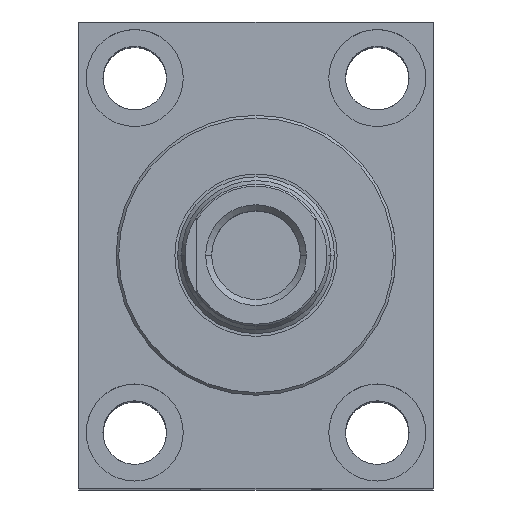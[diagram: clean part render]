
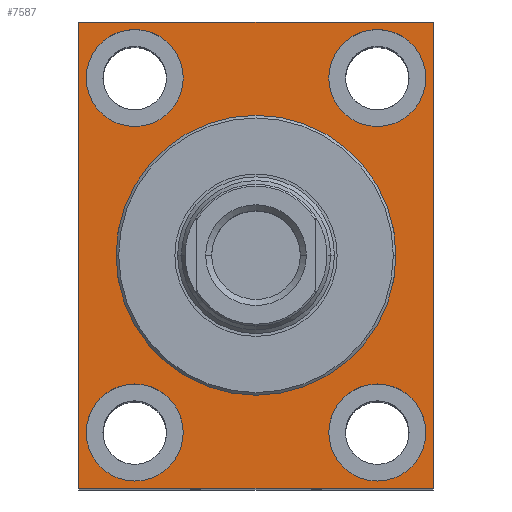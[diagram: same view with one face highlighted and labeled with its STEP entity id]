
A CAD part, top view. The second image highlights one B-rep face of the part: STEP entity #7587.
In plain terms, the highlighted planar face has unit normal (0, 0, 1).
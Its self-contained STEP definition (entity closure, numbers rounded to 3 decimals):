
#70 = CARTESIAN_POINT ( 'NONE',  ( -32.5, -47.5, -14. ) ) ;
#195 = EDGE_CURVE ( 'NONE', #8086, #7768, #4746, .T. ) ;
#219 = DIRECTION ( 'NONE',  ( 0., 0., 1. ) ) ;
#282 = ORIENTED_EDGE ( 'NONE', *, *, #6285, .T. ) ;
#401 = CARTESIAN_POINT ( 'NONE',  ( -45.5, -47.5, -14. ) ) ;
#408 = DIRECTION ( 'NONE',  ( -1., 0., 0. ) ) ;
#432 = CARTESIAN_POINT ( 'NONE',  ( 0., 37.501, -14. ) ) ;
#453 = PLANE ( 'NONE',  #2390 ) ;
#476 = CARTESIAN_POINT ( 'NONE',  ( 32.5, -47.5, -14. ) ) ;
#479 = ORIENTED_EDGE ( 'NONE', *, *, #5317, .T. ) ;
#623 = CARTESIAN_POINT ( 'NONE',  ( -47.5, 62.5, -14. ) ) ;
#718 = CARTESIAN_POINT ( 'NONE',  ( -47.5, -62.5, -14. ) ) ;
#761 = LINE ( 'NONE', #7641, #3872 ) ;
#765 = CARTESIAN_POINT ( 'NONE',  ( 47.5, 62.5, -14. ) ) ;
#802 = VERTEX_POINT ( 'NONE', #3469 ) ;
#821 = ORIENTED_EDGE ( 'NONE', *, *, #7153, .T. ) ;
#945 = DIRECTION ( 'NONE',  ( -1., 0., 0. ) ) ;
#955 = CIRCLE ( 'NONE', #7934, 37.501 ) ;
#977 = VECTOR ( 'NONE', #1991, 1000. ) ;
#988 = VERTEX_POINT ( 'NONE', #765 ) ;
#1033 = CARTESIAN_POINT ( 'NONE',  ( 45.5, -47.5, -14. ) ) ;
#1266 = AXIS2_PLACEMENT_3D ( 'NONE', #476, #5963, #6039 ) ;
#1265 = CARTESIAN_POINT ( 'NONE',  ( -32.5, 47.5, -14. ) ) ;
#1382 = LINE ( 'NONE', #718, #977 ) ;
#1417 = EDGE_LOOP ( 'NONE', ( #3364, #5123, #7441, #7931 ) ) ;
#1420 = VERTEX_POINT ( 'NONE', #4426 ) ;
#1518 = AXIS2_PLACEMENT_3D ( 'NONE', #5764, #2918, #945 ) ;
#1921 = EDGE_CURVE ( 'NONE', #6355, #6663, #6923, .T. ) ;
#1924 = DIRECTION ( 'NONE',  ( -1., 0., 0. ) ) ;
#1991 = DIRECTION ( 'NONE',  ( 1., 0., 0. ) ) ;
#1992 = AXIS2_PLACEMENT_3D ( 'NONE', #2331, #4850, #7350 ) ;
#2044 = CARTESIAN_POINT ( 'NONE',  ( -47.5, -62.5, -14. ) ) ;
#2089 = ORIENTED_EDGE ( 'NONE', *, *, #2458, .T. ) ;
#2108 = FACE_BOUND ( 'NONE', #3210, .T. ) ;
#2125 = CIRCLE ( 'NONE', #6874, 13. ) ;
#2331 = CARTESIAN_POINT ( 'NONE',  ( 0., 0., -14. ) ) ;
#2345 = DIRECTION ( 'NONE',  ( 0., 0., -1. ) ) ;
#2390 = AXIS2_PLACEMENT_3D ( 'NONE', #6109, #219, #3931 ) ;
#2426 = VECTOR ( 'NONE', #5402, 1000. ) ;
#2458 = EDGE_CURVE ( 'NONE', #3333, #1420, #5223, .T. ) ;
#2470 = CARTESIAN_POINT ( 'NONE',  ( -19.5, -47.5, -14. ) ) ;
#2472 = EDGE_LOOP ( 'NONE', ( #6081, #4098 ) ) ;
#2499 = VERTEX_POINT ( 'NONE', #432 ) ;
#2530 = CIRCLE ( 'NONE', #4510, 13. ) ;
#2543 = ORIENTED_EDGE ( 'NONE', *, *, #4186, .T. ) ;
#2585 = DIRECTION ( 'NONE',  ( 0., 1., 0. ) ) ;
#2766 = EDGE_CURVE ( 'NONE', #988, #802, #761, .T. ) ;
#2818 = AXIS2_PLACEMENT_3D ( 'NONE', #1265, #2345, #1924 ) ;
#2832 = EDGE_CURVE ( 'NONE', #3600, #5868, #1382, .T. ) ;
#2918 = DIRECTION ( 'NONE',  ( 0., 0., -1. ) ) ;
#2929 = CARTESIAN_POINT ( 'NONE',  ( 47.5, -62.5, -14. ) ) ;
#3046 = CIRCLE ( 'NONE', #1992, 37.501 ) ;
#3116 = DIRECTION ( 'NONE',  ( 0., 0., -1. ) ) ;
#3123 = DIRECTION ( 'NONE',  ( 0., -1., 0. ) ) ;
#3188 = EDGE_LOOP ( 'NONE', ( #6534, #2543 ) ) ;
#3210 = EDGE_LOOP ( 'NONE', ( #7268, #479 ) ) ;
#3309 = FACE_BOUND ( 'NONE', #4972, .T. ) ;
#3313 = EDGE_CURVE ( 'NONE', #5868, #988, #5325, .T. ) ;
#3333 = VERTEX_POINT ( 'NONE', #1033 ) ;
#3358 = DIRECTION ( 'NONE',  ( 0., 0., -1. ) ) ;
#3361 = CARTESIAN_POINT ( 'NONE',  ( -19.5, 47.5, -14. ) ) ;
#3364 = ORIENTED_EDGE ( 'NONE', *, *, #7694, .T. ) ;
#3367 = EDGE_CURVE ( 'NONE', #3865, #3642, #6524, .T. ) ;
#3469 = CARTESIAN_POINT ( 'NONE',  ( -47.5, 62.5, -14. ) ) ;
#3486 = CARTESIAN_POINT ( 'NONE',  ( 32.5, 47.5, -14. ) ) ;
#3493 = CARTESIAN_POINT ( 'NONE',  ( 45.5, 47.5, -14. ) ) ;
#3542 = DIRECTION ( 'NONE',  ( 0., 0., -1. ) ) ;
#3600 = VERTEX_POINT ( 'NONE', #2044 ) ;
#3642 = VERTEX_POINT ( 'NONE', #3361 ) ;
#3786 = CARTESIAN_POINT ( 'NONE',  ( 0., 0., -14. ) ) ;
#3865 = VERTEX_POINT ( 'NONE', #5707 ) ;
#3872 = VECTOR ( 'NONE', #5255, 1000. ) ;
#3919 = DIRECTION ( 'NONE',  ( 0., 0., -1. ) ) ;
#3931 = DIRECTION ( 'NONE',  ( 1., 0., 0. ) ) ;
#3971 = CARTESIAN_POINT ( 'NONE',  ( 47.5, -62.5, -14. ) ) ;
#4096 = DIRECTION ( 'NONE',  ( -1., 0., 0. ) ) ;
#4098 = ORIENTED_EDGE ( 'NONE', *, *, #6953, .T. ) ;
#4186 = EDGE_CURVE ( 'NONE', #3642, #3865, #2530, .T. ) ;
#4426 = CARTESIAN_POINT ( 'NONE',  ( 19.5, -47.5, -14. ) ) ;
#4444 = DIRECTION ( 'NONE',  ( 0., 0., -1. ) ) ;
#4510 = AXIS2_PLACEMENT_3D ( 'NONE', #7230, #6121, #4096 ) ;
#4628 = FACE_BOUND ( 'NONE', #2472, .T. ) ;
#4721 = EDGE_LOOP ( 'NONE', ( #282, #2089 ) ) ;
#4746 = CIRCLE ( 'NONE', #7767, 13. ) ;
#4850 = DIRECTION ( 'NONE',  ( 0., 0., -1. ) ) ;
#4868 = LINE ( 'NONE', #623, #6232 ) ;
#4972 = EDGE_LOOP ( 'NONE', ( #5993, #821 ) ) ;
#5014 = CIRCLE ( 'NONE', #6735, 13. ) ;
#5123 = ORIENTED_EDGE ( 'NONE', *, *, #2832, .T. ) ;
#5223 = CIRCLE ( 'NONE', #1266, 13. ) ;
#5255 = DIRECTION ( 'NONE',  ( -1., 0., 0. ) ) ;
#5293 = FACE_BOUND ( 'NONE', #3188, .T. ) ;
#5317 = EDGE_CURVE ( 'NONE', #6889, #2499, #955, .T. ) ;
#5325 = LINE ( 'NONE', #2929, #2426 ) ;
#5402 = DIRECTION ( 'NONE',  ( 0., 1., 0. ) ) ;
#5707 = CARTESIAN_POINT ( 'NONE',  ( -45.5, 47.5, -14. ) ) ;
#5764 = CARTESIAN_POINT ( 'NONE',  ( 32.5, 47.5, -14. ) ) ;
#5811 = DIRECTION ( 'NONE',  ( -1., 0., 0. ) ) ;
#5861 = FACE_OUTER_BOUND ( 'NONE', #1417, .T. ) ;
#5868 = VERTEX_POINT ( 'NONE', #3971 ) ;
#5963 = DIRECTION ( 'NONE',  ( 0., 0., -1. ) ) ;
#5993 = ORIENTED_EDGE ( 'NONE', *, *, #1921, .T. ) ;
#6039 = DIRECTION ( 'NONE',  ( -1., 0., 0. ) ) ;
#6081 = ORIENTED_EDGE ( 'NONE', *, *, #195, .T. ) ;
#6107 = CARTESIAN_POINT ( 'NONE',  ( 19.5, 47.5, -14. ) ) ;
#6109 = CARTESIAN_POINT ( 'NONE',  ( 0., 0., -14. ) ) ;
#6121 = DIRECTION ( 'NONE',  ( 0., 0., -1. ) ) ;
#6232 = VECTOR ( 'NONE', #3123, 1000. ) ;
#6285 = EDGE_CURVE ( 'NONE', #1420, #3333, #5014, .T. ) ;
#6323 = CARTESIAN_POINT ( 'NONE',  ( 32.5, -47.5, -14. ) ) ;
#6355 = VERTEX_POINT ( 'NONE', #6107 ) ;
#6524 = CIRCLE ( 'NONE', #2818, 13. ) ;
#6534 = ORIENTED_EDGE ( 'NONE', *, *, #3367, .T. ) ;
#6663 = VERTEX_POINT ( 'NONE', #3493 ) ;
#6695 = CARTESIAN_POINT ( 'NONE',  ( -32.5, -47.5, -14. ) ) ;
#6735 = AXIS2_PLACEMENT_3D ( 'NONE', #6323, #3919, #5811 ) ;
#6874 = AXIS2_PLACEMENT_3D ( 'NONE', #3486, #3358, #7898 ) ;
#6889 = VERTEX_POINT ( 'NONE', #7404 ) ;
#6923 = CIRCLE ( 'NONE', #1518, 13. ) ;
#6953 = EDGE_CURVE ( 'NONE', #7768, #8086, #7256, .T. ) ;
#7153 = EDGE_CURVE ( 'NONE', #6663, #6355, #2125, .T. ) ;
#7230 = CARTESIAN_POINT ( 'NONE',  ( -32.5, 47.5, -14. ) ) ;
#7256 = CIRCLE ( 'NONE', #8051, 13. ) ;
#7268 = ORIENTED_EDGE ( 'NONE', *, *, #7297, .T. ) ;
#7297 = EDGE_CURVE ( 'NONE', #2499, #6889, #3046, .T. ) ;
#7350 = DIRECTION ( 'NONE',  ( 0., 1., 0. ) ) ;
#7404 = CARTESIAN_POINT ( 'NONE',  ( 0., -37.501, -14. ) ) ;
#7441 = ORIENTED_EDGE ( 'NONE', *, *, #3313, .T. ) ;
#7587 = ADVANCED_FACE ( 'NONE', ( #2108, #5293, #3309, #7804, #4628, #5861 ), #453, .T. ) ;
#7607 = DIRECTION ( 'NONE',  ( -1., 0., 0. ) ) ;
#7641 = CARTESIAN_POINT ( 'NONE',  ( 47.5, 62.5, -14. ) ) ;
#7694 = EDGE_CURVE ( 'NONE', #802, #3600, #4868, .T. ) ;
#7767 = AXIS2_PLACEMENT_3D ( 'NONE', #6695, #3542, #408 ) ;
#7768 = VERTEX_POINT ( 'NONE', #2470 ) ;
#7804 = FACE_BOUND ( 'NONE', #4721, .T. ) ;
#7898 = DIRECTION ( 'NONE',  ( -1., 0., 0. ) ) ;
#7931 = ORIENTED_EDGE ( 'NONE', *, *, #2766, .T. ) ;
#7934 = AXIS2_PLACEMENT_3D ( 'NONE', #3786, #4444, #2585 ) ;
#8051 = AXIS2_PLACEMENT_3D ( 'NONE', #70, #3116, #7607 ) ;
#8086 = VERTEX_POINT ( 'NONE', #401 ) ;
